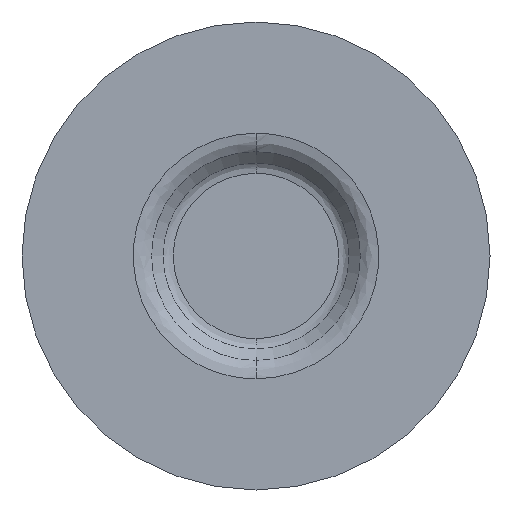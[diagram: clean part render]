
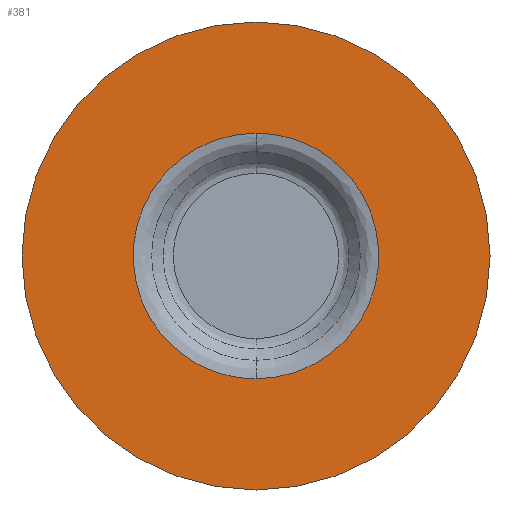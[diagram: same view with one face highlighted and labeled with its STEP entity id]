
A CAD part, front view. The second image highlights one B-rep face of the part: STEP entity #381.
In plain terms, the highlighted planar face has unit normal (0, -1, 0).
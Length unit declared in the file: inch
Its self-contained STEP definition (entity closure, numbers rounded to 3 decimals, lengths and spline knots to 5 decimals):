
#3 = CARTESIAN_POINT ( 'NONE',  ( 0., -0.147, 0.52466 ) ) ;
#18 = AXIS2_PLACEMENT_3D ( 'NONE', #419, #660, #68 ) ;
#54 = EDGE_CURVE ( 'NONE', #502, #142, #668, .T. ) ;
#68 = DIRECTION ( 'NONE',  ( 0., 0., 1. ) ) ;
#79 = CIRCLE ( 'NONE', #496, 1. ) ;
#121 = DIRECTION ( 'NONE',  ( 0., 0., 1. ) ) ;
#142 = VERTEX_POINT ( 'NONE', #226 ) ;
#152 = ORIENTED_EDGE ( 'NONE', *, *, #405, .F. ) ;
#210 = ORIENTED_EDGE ( 'NONE', *, *, #54, .F. ) ;
#220 = DIRECTION ( 'NONE',  ( 0., 1., 0. ) ) ;
#226 = CARTESIAN_POINT ( 'NONE',  ( 0., -0.147, -0.52466 ) ) ;
#227 = CARTESIAN_POINT ( 'NONE',  ( 0., -0.147, 0. ) ) ;
#235 = CARTESIAN_POINT ( 'NONE',  ( 0., -0.147, 1. ) ) ;
#248 = AXIS2_PLACEMENT_3D ( 'NONE', #712, #656, #121 ) ;
#256 = CARTESIAN_POINT ( 'NONE',  ( 1.04932, -0.147, -0.52466 ) ) ;
#275 = VERTEX_POINT ( 'NONE', #235 ) ;
#284 = CARTESIAN_POINT ( 'NONE',  ( 0., -0.147, -0.52466 ) ) ;
#307 = CARTESIAN_POINT ( 'NONE',  ( 1.04932, -0.147, 0.52466 ) ) ;
#309 = CIRCLE ( 'NONE', #18, 1. ) ;
#317 = EDGE_LOOP ( 'NONE', ( #210, #356 ) ) ;
#356 = ORIENTED_EDGE ( 'NONE', *, *, #729, .F. ) ;
#381 = ADVANCED_FACE ( 'NONE', ( #411, #598 ), #468, .F. ) ;
#405 = EDGE_CURVE ( 'NONE', #275, #757, #309, .T. ) ;
#411 = FACE_BOUND ( 'NONE', #317, .T. ) ;
#419 = CARTESIAN_POINT ( 'NONE',  ( 0., -0.147, 0. ) ) ;
#440 = CARTESIAN_POINT ( 'NONE',  ( 0., -0.147, 0.52466 ) ) ;
#441 = EDGE_LOOP ( 'NONE', ( #152, #610 ) ) ;
#468 = PLANE ( 'NONE',  #248 ) ;
#496 = AXIS2_PLACEMENT_3D ( 'NONE', #227, #220, #524 ) ;
#502 = VERTEX_POINT ( 'NONE', #640 ) ;
#524 = DIRECTION ( 'NONE',  ( 0., 0., 1. ) ) ;
#568 =( BOUNDED_CURVE ( )  B_SPLINE_CURVE ( 3, ( #615, #256, #307, #440 ),
 .UNSPECIFIED., .F., .T. ) 
 B_SPLINE_CURVE_WITH_KNOTS ( ( 4, 4 ),
 ( 0., 1. ),
 .UNSPECIFIED. ) 
 CURVE ( )  GEOMETRIC_REPRESENTATION_ITEM ( )  RATIONAL_B_SPLINE_CURVE ( ( 1., 0.333, 0.333, 1. ) ) 
 REPRESENTATION_ITEM ( '' )  );
#598 = FACE_OUTER_BOUND ( 'NONE', #441, .T. ) ;
#601 = EDGE_CURVE ( 'NONE', #757, #275, #79, .T. ) ;
#610 = ORIENTED_EDGE ( 'NONE', *, *, #601, .F. ) ;
#615 = CARTESIAN_POINT ( 'NONE',  ( 0., -0.147, -0.52466 ) ) ;
#640 = CARTESIAN_POINT ( 'NONE',  ( 0., -0.147, 0.52466 ) ) ;
#656 = DIRECTION ( 'NONE',  ( 0., 1., 0. ) ) ;
#660 = DIRECTION ( 'NONE',  ( 0., 1., 0. ) ) ;
#668 =( BOUNDED_CURVE ( )  B_SPLINE_CURVE ( 3, ( #3, #715, #762, #284 ),
 .UNSPECIFIED., .F., .T. ) 
 B_SPLINE_CURVE_WITH_KNOTS ( ( 4, 4 ),
 ( 0., 1. ),
 .UNSPECIFIED. ) 
 CURVE ( )  GEOMETRIC_REPRESENTATION_ITEM ( )  RATIONAL_B_SPLINE_CURVE ( ( 1., 0.333, 0.333, 1. ) ) 
 REPRESENTATION_ITEM ( '' )  );
#677 = CARTESIAN_POINT ( 'NONE',  ( 0., -0.147, -1. ) ) ;
#712 = CARTESIAN_POINT ( 'NONE',  ( 0.52466, -0.147, 0. ) ) ;
#715 = CARTESIAN_POINT ( 'NONE',  ( -1.04932, -0.147, 0.52466 ) ) ;
#729 = EDGE_CURVE ( 'NONE', #142, #502, #568, .T. ) ;
#757 = VERTEX_POINT ( 'NONE', #677 ) ;
#762 = CARTESIAN_POINT ( 'NONE',  ( -1.04932, -0.147, -0.52466 ) ) ;
